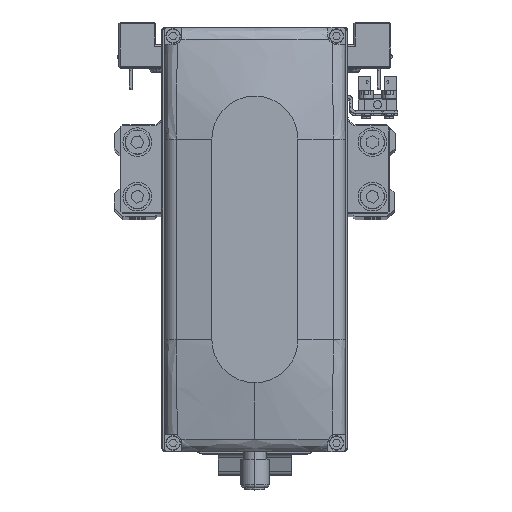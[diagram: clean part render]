
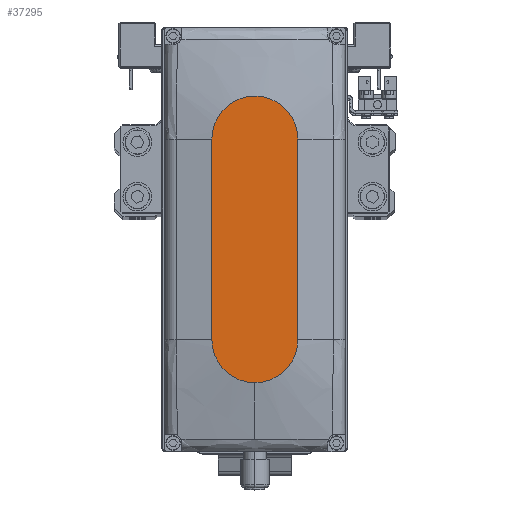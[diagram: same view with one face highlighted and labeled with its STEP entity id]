
A CAD part, top view. The second image highlights one B-rep face of the part: STEP entity #37295.
In plain terms, the highlighted planar face has unit normal (0, 0, 1).
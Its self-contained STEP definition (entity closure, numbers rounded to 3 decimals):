
#298 = ORIENTED_EDGE ( 'NONE', *, *, #14849, .T. ) ;
#794 = CARTESIAN_POINT ( 'NONE',  ( 35., 0., 35. ) ) ;
#832 = CARTESIAN_POINT ( 'NONE',  ( -35., 15., 35. ) ) ;
#1677 = DIRECTION ( 'NONE',  ( 1., 0., 0. ) ) ;
#4845 = PLANE ( 'NONE',  #22359 ) ;
#5020 = CIRCLE ( 'NONE', #28478, 15. ) ;
#5610 = ORIENTED_EDGE ( 'NONE', *, *, #12367, .T. ) ;
#8337 = DIRECTION ( 'NONE',  ( 1., 0., 0. ) ) ;
#10096 = CARTESIAN_POINT ( 'NONE',  ( 35., 15., 35. ) ) ;
#11678 = VERTEX_POINT ( 'NONE', #12120 ) ;
#11812 = CARTESIAN_POINT ( 'NONE',  ( 35., 0., 35. ) ) ;
#12120 = CARTESIAN_POINT ( 'NONE',  ( 35., -15., 35. ) ) ;
#12367 = EDGE_CURVE ( 'NONE', #17966, #37152, #31572, .T. ) ;
#12423 = DIRECTION ( 'NONE',  ( 1., 0., 0. ) ) ;
#12467 = EDGE_CURVE ( 'NONE', #22190, #11678, #28401, .T. ) ;
#13475 = AXIS2_PLACEMENT_3D ( 'NONE', #11812, #24629, #37442 ) ;
#13599 = DIRECTION ( 'NONE',  ( 0., 0., 1. ) ) ;
#13638 = DIRECTION ( 'NONE',  ( -1., 0., 0. ) ) ;
#14693 = EDGE_CURVE ( 'NONE', #11678, #17966, #5020, .T. ) ;
#14849 = EDGE_CURVE ( 'NONE', #24543, #22190, #17100, .T. ) ;
#16135 = ORIENTED_EDGE ( 'NONE', *, *, #12467, .T. ) ;
#16547 = EDGE_LOOP ( 'NONE', ( #17442, #298, #16135, #36831, #5610 ) ) ;
#17100 = CIRCLE ( 'NONE', #40556, 15. ) ;
#17442 = ORIENTED_EDGE ( 'NONE', *, *, #32579, .T. ) ;
#17651 = CARTESIAN_POINT ( 'NONE',  ( 0., 0., 35. ) ) ;
#17966 = VERTEX_POINT ( 'NONE', #37745 ) ;
#22190 = VERTEX_POINT ( 'NONE', #41359 ) ;
#22359 = AXIS2_PLACEMENT_3D ( 'NONE', #17651, #30438, #1677 ) ;
#24281 = CARTESIAN_POINT ( 'NONE',  ( -35., 0., 35. ) ) ;
#24543 = VERTEX_POINT ( 'NONE', #37971 ) ;
#24629 = DIRECTION ( 'NONE',  ( 0., 0., 1. ) ) ;
#26396 = DIRECTION ( 'NONE',  ( 1., 0., 0. ) ) ;
#27568 = VECTOR ( 'NONE', #12423, 1000. ) ;
#28401 = LINE ( 'NONE', #41198, #27568 ) ;
#28478 = AXIS2_PLACEMENT_3D ( 'NONE', #794, #13599, #26396 ) ;
#29584 = LINE ( 'NONE', #832, #33271 ) ;
#30438 = DIRECTION ( 'NONE',  ( 0., 0., 1. ) ) ;
#31572 = CIRCLE ( 'NONE', #13475, 15. ) ;
#32579 = EDGE_CURVE ( 'NONE', #37152, #24543, #29584, .T. ) ;
#33271 = VECTOR ( 'NONE', #13638, 1000. ) ;
#33588 = FACE_OUTER_BOUND ( 'NONE', #16547, .T. ) ;
#36831 = ORIENTED_EDGE ( 'NONE', *, *, #14693, .T. ) ;
#37097 = DIRECTION ( 'NONE',  ( 0., 0., 1. ) ) ;
#37152 = VERTEX_POINT ( 'NONE', #10096 ) ;
#37295 = ADVANCED_FACE ( 'NONE', ( #33588 ), #4845, .T. ) ;
#37442 = DIRECTION ( 'NONE',  ( 1., 0., 0. ) ) ;
#37745 = CARTESIAN_POINT ( 'NONE',  ( 50., 0., 35. ) ) ;
#37971 = CARTESIAN_POINT ( 'NONE',  ( -35., 15., 35. ) ) ;
#40556 = AXIS2_PLACEMENT_3D ( 'NONE', #24281, #37097, #8337 ) ;
#41198 = CARTESIAN_POINT ( 'NONE',  ( -35., -15., 35. ) ) ;
#41359 = CARTESIAN_POINT ( 'NONE',  ( -35., -15., 35. ) ) ;
